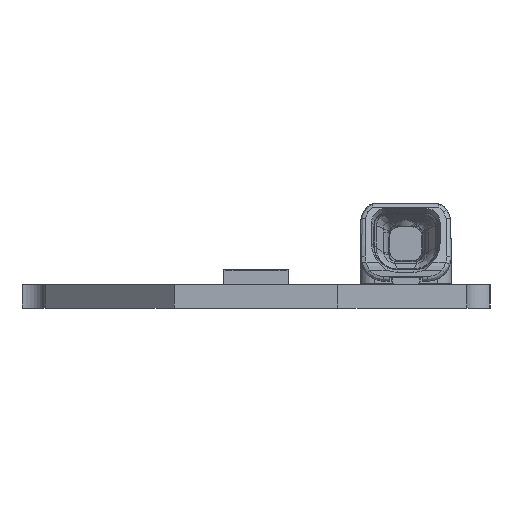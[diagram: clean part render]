
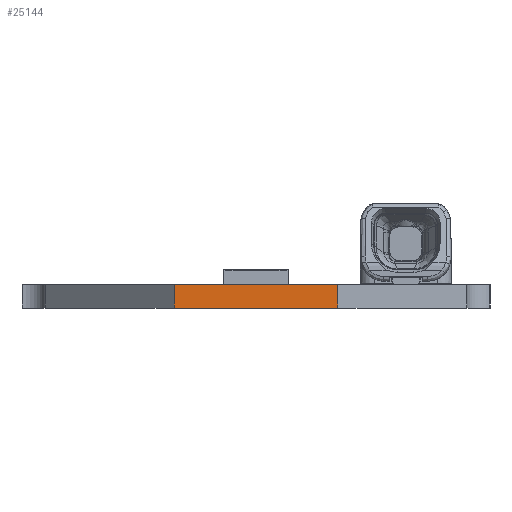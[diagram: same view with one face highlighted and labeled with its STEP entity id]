
A CAD part, left-side view. The second image highlights one B-rep face of the part: STEP entity #25144.
In plain terms, the highlighted planar face has unit normal (-1, 0, 0).
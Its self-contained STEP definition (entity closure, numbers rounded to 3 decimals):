
#1435=ORIENTED_EDGE('',*,*,#6488,.F.);
#1436=ORIENTED_EDGE('',*,*,#6658,.F.);
#1437=ORIENTED_EDGE('',*,*,#6606,.T.);
#1438=ORIENTED_EDGE('',*,*,#6657,.T.);
#6488=EDGE_CURVE('',#9174,#9175,#10902,.T.);
#6606=EDGE_CURVE('',#9242,#9292,#10978,.T.);
#6657=EDGE_CURVE('',#9292,#9175,#11029,.T.);
#6658=EDGE_CURVE('',#9242,#9174,#11030,.T.);
#9174=VERTEX_POINT('',#32267);
#9175=VERTEX_POINT('',#32269);
#9242=VERTEX_POINT('',#32404);
#9292=VERTEX_POINT('',#32504);
#10902=LINE('',#32268,#12942);
#10978=LINE('',#32505,#13018);
#11029=LINE('',#32606,#13069);
#11030=LINE('',#32608,#13070);
#12942=VECTOR('',#27554,1000.);
#13018=VECTOR('',#27716,1000.);
#13069=VECTOR('',#27867,1000.);
#13070=VECTOR('',#27870,1000.);
#14929=EDGE_LOOP('',(#1435,#1436,#1437,#1438));
#16053=FACE_BOUND('',#14929,.T.);
#17122=PLANE('',#26233);
#25144=ADVANCED_FACE('',(#16053),#17122,.T.);
#26233=AXIS2_PLACEMENT_3D('',#32607,#27868,#27869);
#27554=DIRECTION('',(0.,-1.,0.));
#27716=DIRECTION('',(0.,-1.,0.));
#27867=DIRECTION('',(0.,0.,1.));
#27868=DIRECTION('',(-1.,0.,0.));
#27869=DIRECTION('',(0.,0.,1.));
#27870=DIRECTION('',(0.,0.,1.));
#32267=CARTESIAN_POINT('',(-139.8,3.5,0.));
#32268=CARTESIAN_POINT('',(-139.8,3.5,0.));
#32269=CARTESIAN_POINT('',(-139.8,-3.5,0.));
#32404=CARTESIAN_POINT('',(-139.8,3.5,-1.));
#32504=CARTESIAN_POINT('',(-139.8,-3.5,-1.));
#32505=CARTESIAN_POINT('',(-139.8,3.5,-1.));
#32606=CARTESIAN_POINT('',(-139.8,-3.5,-1.));
#32607=CARTESIAN_POINT('',(-139.8,3.5,-1.));
#32608=CARTESIAN_POINT('',(-139.8,3.5,-1.));
